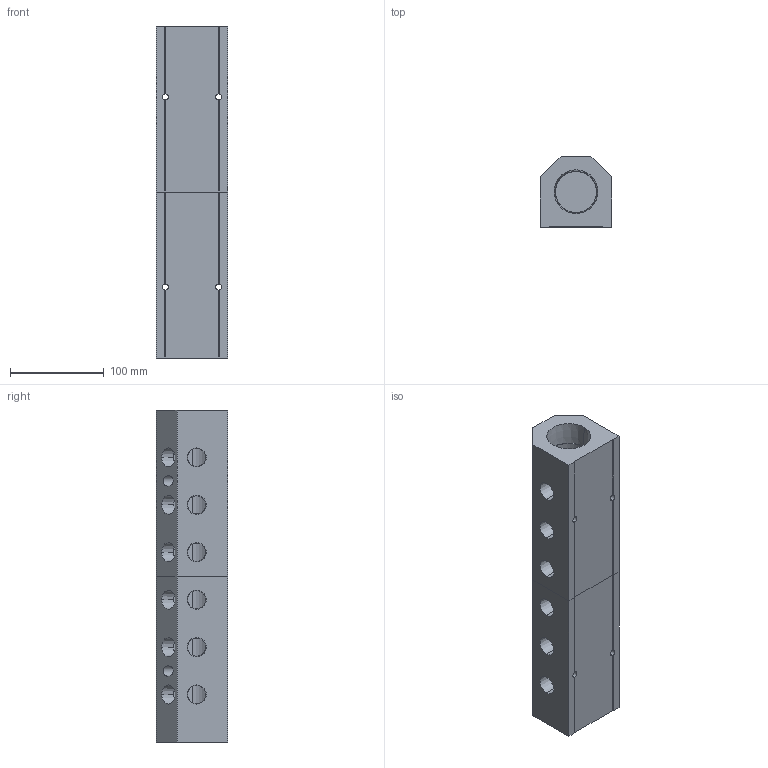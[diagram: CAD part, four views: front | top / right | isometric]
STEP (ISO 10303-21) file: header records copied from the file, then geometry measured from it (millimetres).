
FILE_DESCRIPTION (( 'STEP AP214' ), '1' );
FILE_NAME ('ALM6ABC-N8N24-355RB.step', '2022-02-07T09:39:38', ( '' ), ( '' ), 'SwSTEP 2.0', 'SolidWorks 2020', '' );
FILE_SCHEMA (( 'AUTOMOTIVE_DESIGN' ));
Length unit declared in the file: millimetre
Products named in the file (1): ALM6ABC-N8N24-355RB
Bounding box: 76.2 x 76.2 x 355 mm (x, y, z)
Volume: 1227576.3 mm3; surface area: 182848.8 mm2
Topology: 2 solids, 2 shells, 395 faces, 1099 edges, 730 vertices
Faces by surface type: plane 239, bspline 96, cone 40, cylinder 20
Entity records: 23674 total; most frequent: CARTESIAN_POINT 10493, ORIENTED_EDGE 2198, DIRECTION 1483, EDGE_CURVE 1099, LINE 731, VECTOR 731, VERTEX_POINT 730, EDGE_LOOP 461
